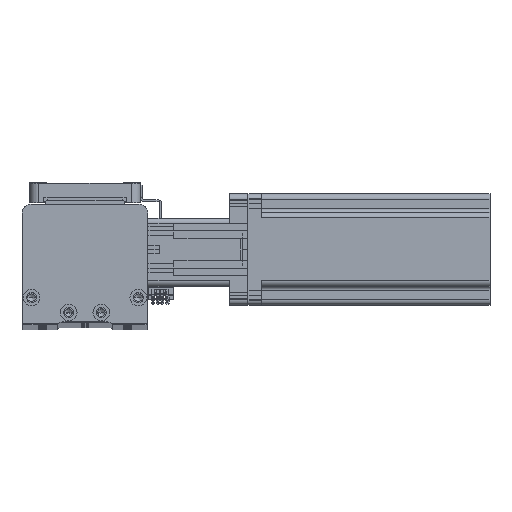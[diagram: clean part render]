
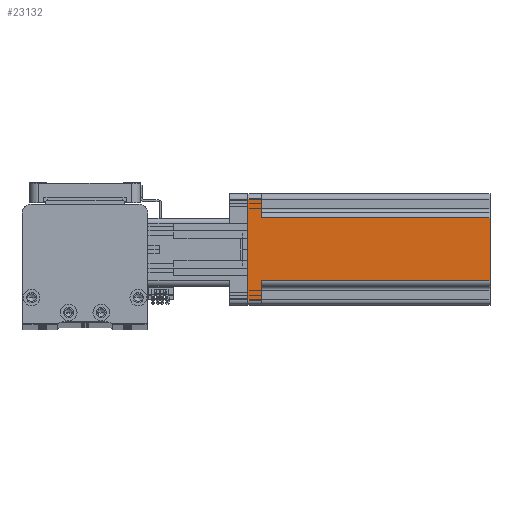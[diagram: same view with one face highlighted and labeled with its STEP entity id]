
A CAD part, top view. The second image highlights one B-rep face of the part: STEP entity #23132.
In plain terms, the highlighted planar face has unit normal (0, 0, 1) as drawn and (1, 0, 0) by its records, which use the part's own axes.
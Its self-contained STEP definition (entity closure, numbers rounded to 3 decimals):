
#2390 = VERTEX_POINT ( 'NONE', #13987 ) ;
#2442 = CARTESIAN_POINT ( 'NONE',  ( 30., -30., 130.7 ) ) ;
#2988 = CARTESIAN_POINT ( 'NONE',  ( 30., -17., 7.5 ) ) ;
#3810 = CARTESIAN_POINT ( 'NONE',  ( 30., 27., 7.5 ) ) ;
#4209 = EDGE_CURVE ( 'NONE', #47177, #2390, #4992, .T. ) ;
#4992 = LINE ( 'NONE', #16503, #46526 ) ;
#5062 = DIRECTION ( 'NONE',  ( 0., 0., 1. ) ) ;
#5066 = DIRECTION ( 'NONE',  ( 0., 0., 1. ) ) ;
#5573 = CARTESIAN_POINT ( 'NONE',  ( 30., -30., 130.7 ) ) ;
#5655 = LINE ( 'NONE', #49570, #47181 ) ;
#7365 = DIRECTION ( 'NONE',  ( 0., 1., 0. ) ) ;
#7528 = FACE_OUTER_BOUND ( 'NONE', #27616, .T. ) ;
#7648 = EDGE_CURVE ( 'NONE', #2390, #47717, #35133, .T. ) ;
#9642 = DIRECTION ( 'NONE',  ( 0., 0., 1. ) ) ;
#10616 = VERTEX_POINT ( 'NONE', #15552 ) ;
#11407 = ORIENTED_EDGE ( 'NONE', *, *, #34597, .T. ) ;
#12848 = CARTESIAN_POINT ( 'NONE',  ( 30., -17., 7.5 ) ) ;
#13729 = VECTOR ( 'NONE', #5066, 1000. ) ;
#13987 = CARTESIAN_POINT ( 'NONE',  ( 30., 27., 0. ) ) ;
#14667 = CARTESIAN_POINT ( 'NONE',  ( 30., 17., 7.5 ) ) ;
#15552 = CARTESIAN_POINT ( 'NONE',  ( 30., -27., 7.5 ) ) ;
#16382 = CARTESIAN_POINT ( 'NONE',  ( 30., 17., 130.7 ) ) ;
#16503 = CARTESIAN_POINT ( 'NONE',  ( 30., -30., 0. ) ) ;
#17195 = VERTEX_POINT ( 'NONE', #47273 ) ;
#18617 = DIRECTION ( 'NONE',  ( 0., 1., 0. ) ) ;
#20453 = ORIENTED_EDGE ( 'NONE', *, *, #7648, .T. ) ;
#20680 = LINE ( 'NONE', #35529, #40812 ) ;
#20932 = DIRECTION ( 'NONE',  ( 0., 0., -1. ) ) ;
#21423 = PLANE ( 'NONE',  #31941 ) ;
#21527 = ORIENTED_EDGE ( 'NONE', *, *, #23051, .T. ) ;
#23051 = EDGE_CURVE ( 'NONE', #10616, #47177, #5655, .T. ) ;
#23132 = ADVANCED_FACE ( 'NONE', ( #7528 ), #21423, .F. ) ;
#23537 = LINE ( 'NONE', #29190, #33041 ) ;
#23572 = LINE ( 'NONE', #12848, #43751 ) ;
#23980 = VECTOR ( 'NONE', #18617, 1000. ) ;
#24731 = ORIENTED_EDGE ( 'NONE', *, *, #41638, .F. ) ;
#24821 = ORIENTED_EDGE ( 'NONE', *, *, #4209, .T. ) ;
#25071 = VECTOR ( 'NONE', #44366, 1000. ) ;
#25348 = ORIENTED_EDGE ( 'NONE', *, *, #47262, .T. ) ;
#25469 = VERTEX_POINT ( 'NONE', #14667 ) ;
#26834 = VERTEX_POINT ( 'NONE', #16382 ) ;
#27616 = EDGE_LOOP ( 'NONE', ( #24731, #25348, #11407, #21527, #24821, #20453, #29370, #44462 ) ) ;
#28628 = DIRECTION ( 'NONE',  ( 0., 1., 0. ) ) ;
#29190 = CARTESIAN_POINT ( 'NONE',  ( 30., 17., 130.7 ) ) ;
#29192 = CARTESIAN_POINT ( 'NONE',  ( 30., 27., 130.7 ) ) ;
#29370 = ORIENTED_EDGE ( 'NONE', *, *, #49875, .F. ) ;
#29697 = VERTEX_POINT ( 'NONE', #2988 ) ;
#29937 = EDGE_CURVE ( 'NONE', #25469, #26834, #23537, .T. ) ;
#31941 = AXIS2_PLACEMENT_3D ( 'NONE', #5573, #33772, #9642 ) ;
#33041 = VECTOR ( 'NONE', #5062, 1000. ) ;
#33640 = DIRECTION ( 'NONE',  ( 0., 0., -1. ) ) ;
#33772 = DIRECTION ( 'NONE',  ( -1., 0., 0. ) ) ;
#34597 = EDGE_CURVE ( 'NONE', #29697, #10616, #47694, .T. ) ;
#34698 = LINE ( 'NONE', #2442, #23980 ) ;
#35133 = LINE ( 'NONE', #29192, #13729 ) ;
#35529 = CARTESIAN_POINT ( 'NONE',  ( 30., 30., 7.5 ) ) ;
#40812 = VECTOR ( 'NONE', #7365, 1000. ) ;
#41638 = EDGE_CURVE ( 'NONE', #17195, #26834, #34698, .T. ) ;
#43751 = VECTOR ( 'NONE', #20932, 1000. ) ;
#44351 = CARTESIAN_POINT ( 'NONE',  ( 30., -27., 0. ) ) ;
#44366 = DIRECTION ( 'NONE',  ( 0., -1., 0. ) ) ;
#44462 = ORIENTED_EDGE ( 'NONE', *, *, #29937, .T. ) ;
#46526 = VECTOR ( 'NONE', #28628, 1000. ) ;
#47177 = VERTEX_POINT ( 'NONE', #44351 ) ;
#47181 = VECTOR ( 'NONE', #33640, 1000. ) ;
#47262 = EDGE_CURVE ( 'NONE', #17195, #29697, #23572, .T. ) ;
#47273 = CARTESIAN_POINT ( 'NONE',  ( 30., -17., 130.7 ) ) ;
#47694 = LINE ( 'NONE', #48354, #25071 ) ;
#47717 = VERTEX_POINT ( 'NONE', #3810 ) ;
#48354 = CARTESIAN_POINT ( 'NONE',  ( 30., -30., 7.5 ) ) ;
#49570 = CARTESIAN_POINT ( 'NONE',  ( 30., -27., 130.7 ) ) ;
#49875 = EDGE_CURVE ( 'NONE', #25469, #47717, #20680, .T. ) ;
